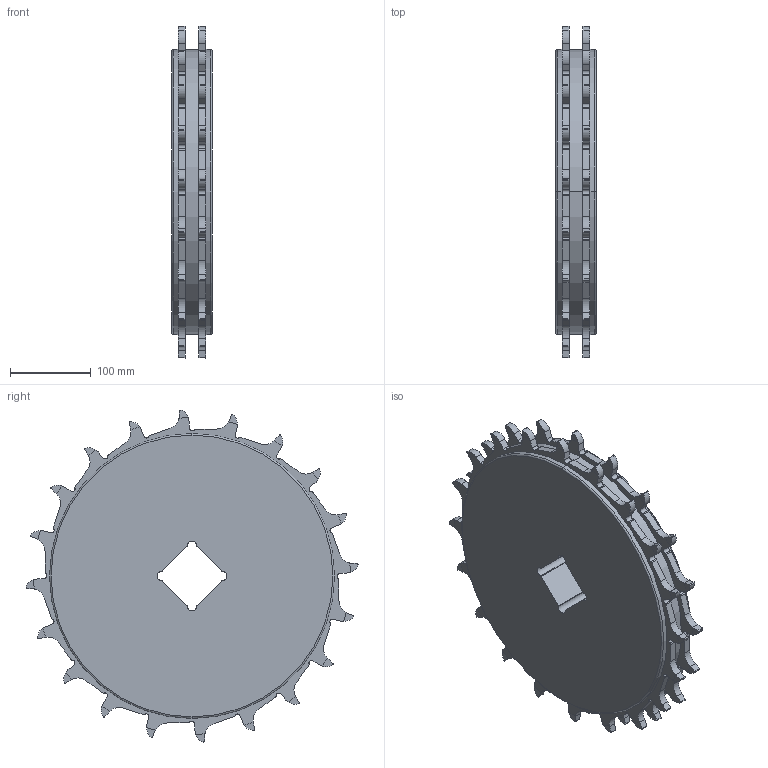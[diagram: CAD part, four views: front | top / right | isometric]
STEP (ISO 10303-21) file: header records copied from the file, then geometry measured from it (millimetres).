
FILE_DESCRIPTION((''),'2;1');
FILE_NAME('T1093','2020-11-28T14:34:38',('MTH'),(''),'CREO PARAMETRIC BY PTC INC, 2020342','CREO PARAMETRIC BY PTC INC, 2020342','');
FILE_SCHEMA(('AUTOMOTIVE_DESIGN { 1 0 10303 214 1 1 1 1 }'));
Length unit declared in the file: millimetre
Products named in the file (1): T1093
Bounding box: 50 x 412.37 x 412.37 mm (x, y, z)
Volume: 4966863.9 mm3; surface area: 320912.7 mm2
Topology: 1 solids, 1 shells, 652 faces, 1936 edges, 1306 vertices
Faces by surface type: plane 348, cylinder 220, cone 80, torus 4
Entity records: 32674 total; most frequent: CARTESIAN_POINT 8639, ORIENTED_EDGE 3778, DIRECTION 3531, PRESENTATION_STYLE_ASSIGNMENT 1957, STYLED_ITEM 1941, CURVE_STYLE 1940, EDGE_CURVE 1889, VERTEX_POINT 1258
